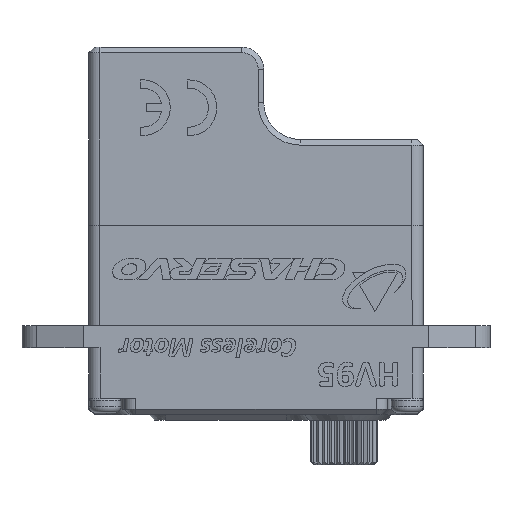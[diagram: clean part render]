
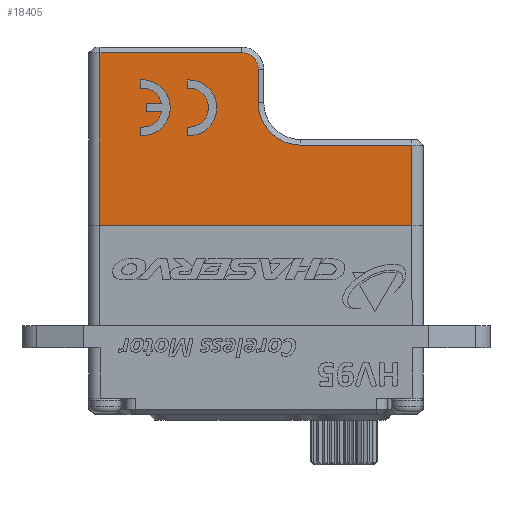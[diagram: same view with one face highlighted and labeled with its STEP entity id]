
A CAD part, front view. The second image highlights one B-rep face of the part: STEP entity #18405.
In plain terms, the highlighted planar face has unit normal (0, -1, 0).
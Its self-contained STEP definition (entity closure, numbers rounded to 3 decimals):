
#210 = ORIENTED_EDGE ( 'NONE', *, *, #23144, .T. ) ;
#2239 = DIRECTION ( 'NONE',  ( 0., 0., -1. ) ) ;
#4193 = VERTEX_POINT ( 'NONE', #20575 ) ;
#4440 = DIRECTION ( 'NONE',  ( -1., 0., 0. ) ) ;
#4698 = AXIS2_PLACEMENT_3D ( 'NONE', #26635, #23401, #2239 ) ;
#5093 = AXIS2_PLACEMENT_3D ( 'NONE', #14768, #32470, #25654 ) ;
#5202 = VECTOR ( 'NONE', #33882, 1000. ) ;
#8028 = CARTESIAN_POINT ( 'NONE',  ( -61.544, -15.846, 21.55 ) ) ;
#9317 = VECTOR ( 'NONE', #11465, 1000. ) ;
#10122 = ORIENTED_EDGE ( 'NONE', *, *, #34322, .T. ) ;
#11183 = EDGE_CURVE ( 'NONE', #4193, #31445, #31815, .T. ) ;
#11465 = DIRECTION ( 'NONE',  ( 0., 0., 1. ) ) ;
#11478 = ORIENTED_EDGE ( 'NONE', *, *, #13391, .T. ) ;
#11711 = LINE ( 'NONE', #22008, #26034 ) ;
#12091 = EDGE_LOOP ( 'NONE', ( #10122, #11478, #24773, #28646, #210, #37167, #42283, #24684 ) ) ;
#12768 = FACE_OUTER_BOUND ( 'NONE', #12091, .T. ) ;
#13391 = EDGE_CURVE ( 'NONE', #32130, #21605, #11711, .T. ) ;
#14662 = EDGE_CURVE ( 'NONE', #21605, #40897, #29718, .T. ) ;
#14768 = CARTESIAN_POINT ( 'NONE',  ( -43.544, -15.846, 17.05 ) ) ;
#15145 = DIRECTION ( 'NONE',  ( -1., 0., 0. ) ) ;
#18178 = CARTESIAN_POINT ( 'NONE',  ( -48.844, -15.846, 20.05 ) ) ;
#18405 = ADVANCED_FACE ( 'NONE', ( #12768 ), #40554, .F. ) ;
#19082 = VECTOR ( 'NONE', #33615, 1000. ) ;
#20575 = CARTESIAN_POINT ( 'NONE',  ( -61.544, -15.846, 6.05 ) ) ;
#20768 = CARTESIAN_POINT ( 'NONE',  ( -61.544, -15.846, 21.55 ) ) ;
#20769 = LINE ( 'NONE', #35145, #31324 ) ;
#21605 = VERTEX_POINT ( 'NONE', #43802 ) ;
#22008 = CARTESIAN_POINT ( 'NONE',  ( -32.544, -15.846, 13.25 ) ) ;
#23144 = EDGE_CURVE ( 'NONE', #45066, #42810, #45702, .T. ) ;
#23401 = DIRECTION ( 'NONE',  ( 0., 1., 0. ) ) ;
#24684 = ORIENTED_EDGE ( 'NONE', *, *, #11183, .T. ) ;
#24773 = ORIENTED_EDGE ( 'NONE', *, *, #14662, .T. ) ;
#25654 = DIRECTION ( 'NONE',  ( 0., 0., -1. ) ) ;
#25825 = CARTESIAN_POINT ( 'NONE',  ( -47.344, -15.846, 20.05 ) ) ;
#26034 = VECTOR ( 'NONE', #4440, 1000. ) ;
#26092 = VERTEX_POINT ( 'NONE', #20768 ) ;
#26603 = CARTESIAN_POINT ( 'NONE',  ( -47.344, -15.846, 36.05 ) ) ;
#26635 = CARTESIAN_POINT ( 'NONE',  ( -32.544, -15.846, 36.05 ) ) ;
#27692 = LINE ( 'NONE', #8028, #45418 ) ;
#28452 = CARTESIAN_POINT ( 'NONE',  ( -48.844, -15.846, 21.55 ) ) ;
#28646 = ORIENTED_EDGE ( 'NONE', *, *, #35877, .T. ) ;
#29718 = CIRCLE ( 'NONE', #5093, 3.8 ) ;
#31324 = VECTOR ( 'NONE', #34829, 1000. ) ;
#31445 = VERTEX_POINT ( 'NONE', #40293 ) ;
#31762 = DIRECTION ( 'NONE',  ( 0., -1., 0. ) ) ;
#31815 = LINE ( 'NONE', #44122, #19082 ) ;
#32130 = VERTEX_POINT ( 'NONE', #32769 ) ;
#32470 = DIRECTION ( 'NONE',  ( 0., 1., 0. ) ) ;
#32769 = CARTESIAN_POINT ( 'NONE',  ( -33.544, -15.846, 13.25 ) ) ;
#33347 = EDGE_CURVE ( 'NONE', #42810, #26092, #27692, .T. ) ;
#33615 = DIRECTION ( 'NONE',  ( 1., 0., 0. ) ) ;
#33882 = DIRECTION ( 'NONE',  ( 0., 0., 1. ) ) ;
#34322 = EDGE_CURVE ( 'NONE', #31445, #32130, #36403, .T. ) ;
#34829 = DIRECTION ( 'NONE',  ( 0., 0., -1. ) ) ;
#35145 = CARTESIAN_POINT ( 'NONE',  ( -61.544, -15.846, 36.05 ) ) ;
#35877 = EDGE_CURVE ( 'NONE', #40897, #45066, #42774, .T. ) ;
#36403 = LINE ( 'NONE', #42838, #9317 ) ;
#36838 = CARTESIAN_POINT ( 'NONE',  ( -47.344, -15.846, 17.05 ) ) ;
#37067 = EDGE_CURVE ( 'NONE', #26092, #4193, #20769, .T. ) ;
#37167 = ORIENTED_EDGE ( 'NONE', *, *, #33347, .T. ) ;
#39171 = DIRECTION ( 'NONE',  ( 0., 0., -1. ) ) ;
#40293 = CARTESIAN_POINT ( 'NONE',  ( -33.544, -15.846, 6.05 ) ) ;
#40554 = PLANE ( 'NONE',  #4698 ) ;
#40897 = VERTEX_POINT ( 'NONE', #36838 ) ;
#42283 = ORIENTED_EDGE ( 'NONE', *, *, #37067, .T. ) ;
#42774 = LINE ( 'NONE', #26603, #5202 ) ;
#42810 = VERTEX_POINT ( 'NONE', #28452 ) ;
#42838 = CARTESIAN_POINT ( 'NONE',  ( -33.544, -15.846, 36.05 ) ) ;
#43802 = CARTESIAN_POINT ( 'NONE',  ( -43.544, -15.846, 13.25 ) ) ;
#44122 = CARTESIAN_POINT ( 'NONE',  ( -32.544, -15.846, 6.05 ) ) ;
#44422 = AXIS2_PLACEMENT_3D ( 'NONE', #18178, #31762, #39171 ) ;
#45066 = VERTEX_POINT ( 'NONE', #25825 ) ;
#45418 = VECTOR ( 'NONE', #15145, 1000. ) ;
#45702 = CIRCLE ( 'NONE', #44422, 1.5 ) ;
